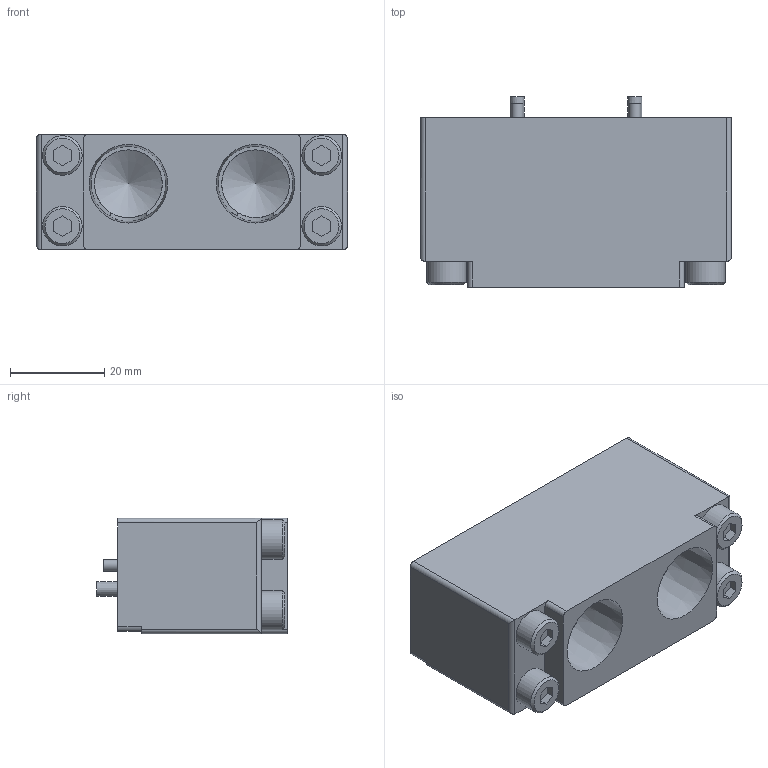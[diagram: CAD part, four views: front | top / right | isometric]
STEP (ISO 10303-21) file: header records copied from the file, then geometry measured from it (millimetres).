
FILE_DESCRIPTION(('STEP AP214'),'1');
FILE_NAME('KHB-12_25RS-EP102_ver1.stp','2026-04-27T04:26:58',(' '),(' '),'Spatial InterOp 3D',' ',' ');
FILE_SCHEMA(('AUTOMOTIVE_DESIGN { 1 0 10303 214 1 1 1 1 }'));
Length unit declared in the file: millimetre
Products named in the file (1): KHB-12~25RS-EP102_ver1
Bounding box: 66 x 40.5 x 24.5 mm (x, y, z)
Volume: 45065.8 mm3; surface area: 16662.3 mm2
Topology: 1 solids, 11 shells, 158 faces, 345 edges, 229 vertices
Faces by surface type: plane 96, cylinder 46, cone 16
Full cylindrical faces by diameter (mm): 2.5 x4, 3.5 x2, 4 x2, 4.2 x4, 5 x4, 5.41 x2, 5.5 x4, 6.5 x2, 8.385 x4, 12 x2, 14.4 x2
Entity records: 5284 total; most frequent: CARTESIAN_POINT 765, DIRECTION 692, ORIENTED_EDGE 546, EDGE_CURVE 273, AXIS2_PLACEMENT_3D 264, EDGE_LOOP 238, VERTEX_POINT 207, FACE_OUTER_BOUND 190
